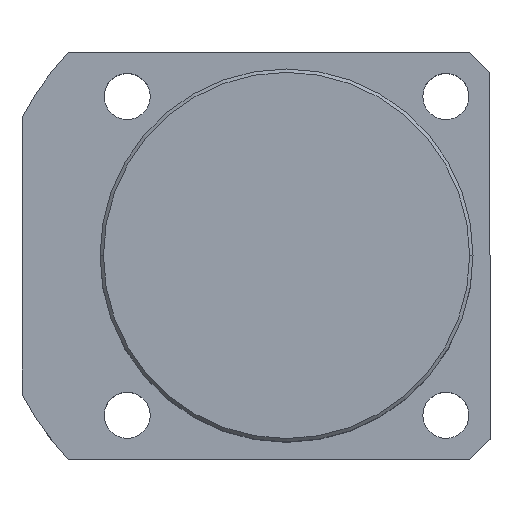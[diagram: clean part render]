
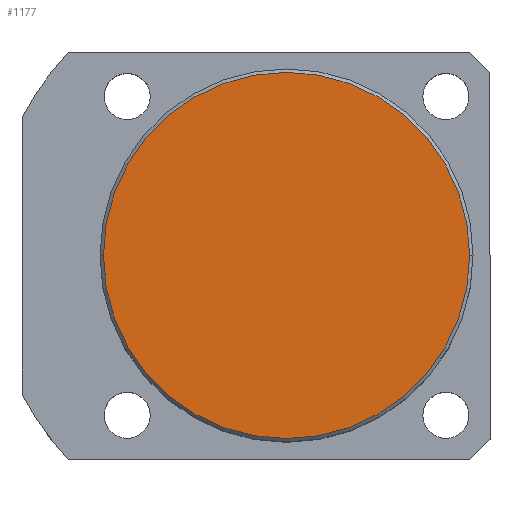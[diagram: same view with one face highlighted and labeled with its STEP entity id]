
A CAD part, top view. The second image highlights one B-rep face of the part: STEP entity #1177.
In plain terms, the highlighted planar face has unit normal (0, 0, 1).
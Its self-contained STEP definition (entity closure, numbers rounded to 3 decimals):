
#58 = EDGE_CURVE ( 'NONE', #694, #2011, #1757, .T. ) ;
#134 = CARTESIAN_POINT ( 'NONE',  ( -27., 0., 45. ) ) ;
#252 = CARTESIAN_POINT ( 'NONE',  ( 0., 0., 45. ) ) ;
#308 = AXIS2_PLACEMENT_3D ( 'NONE', #544, #855, #1191 ) ;
#383 = PLANE ( 'NONE',  #308 ) ;
#417 = DIRECTION ( 'NONE',  ( 1., 0., 0. ) ) ;
#421 = DIRECTION ( 'NONE',  ( 0., 0., 1. ) ) ;
#544 = CARTESIAN_POINT ( 'NONE',  ( 0., 0., 45. ) ) ;
#623 = DIRECTION ( 'NONE',  ( 1., 0., 0. ) ) ;
#651 = AXIS2_PLACEMENT_3D ( 'NONE', #252, #421, #417 ) ;
#694 = VERTEX_POINT ( 'NONE', #2136 ) ;
#696 = FACE_OUTER_BOUND ( 'NONE', #787, .T. ) ;
#787 = EDGE_LOOP ( 'NONE', ( #1585, #939 ) ) ;
#794 = EDGE_CURVE ( 'NONE', #2011, #694, #1095, .T. ) ;
#855 = DIRECTION ( 'NONE',  ( 0., 0., 1. ) ) ;
#939 = ORIENTED_EDGE ( 'NONE', *, *, #58, .T. ) ;
#1095 = CIRCLE ( 'NONE', #1129, 27. ) ;
#1129 = AXIS2_PLACEMENT_3D ( 'NONE', #1290, #1491, #623 ) ;
#1177 = ADVANCED_FACE ( 'NONE', ( #696 ), #383, .T. ) ;
#1191 = DIRECTION ( 'NONE',  ( 1., 0., 0. ) ) ;
#1290 = CARTESIAN_POINT ( 'NONE',  ( 0., 0., 45. ) ) ;
#1491 = DIRECTION ( 'NONE',  ( 0., 0., 1. ) ) ;
#1585 = ORIENTED_EDGE ( 'NONE', *, *, #794, .T. ) ;
#1757 = CIRCLE ( 'NONE', #651, 27. ) ;
#2011 = VERTEX_POINT ( 'NONE', #134 ) ;
#2136 = CARTESIAN_POINT ( 'NONE',  ( 27., 0., 45. ) ) ;
